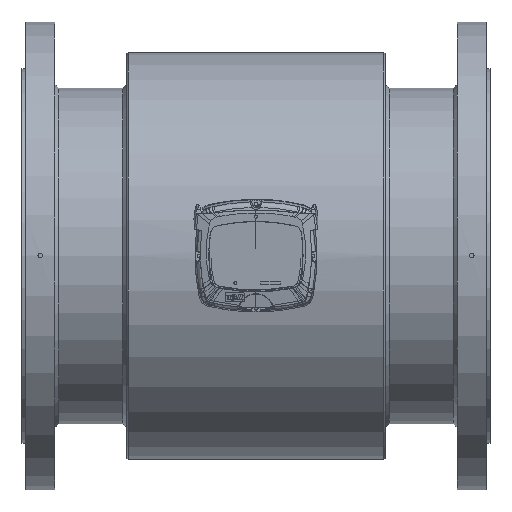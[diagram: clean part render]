
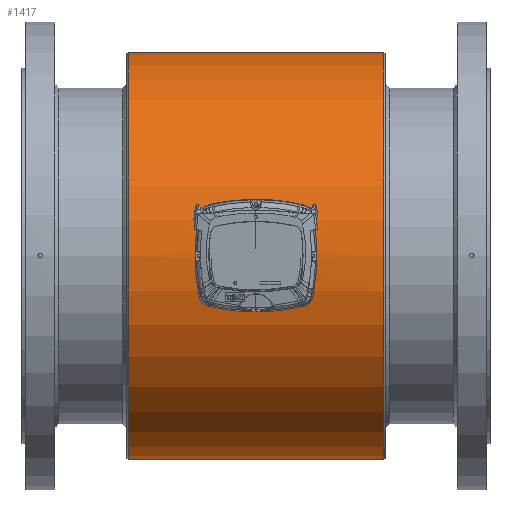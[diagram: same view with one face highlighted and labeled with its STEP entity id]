
A CAD part, top view. The second image highlights one B-rep face of the part: STEP entity #1417.
In plain terms, the highlighted cylindrical face has radius 261 mm (diameter 522 mm), a full revolution.
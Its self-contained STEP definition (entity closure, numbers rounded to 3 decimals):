
#1352=CARTESIAN_POINT('',(0.,-11.498,260.747));
#1353=VERTEX_POINT('',#1352);
#1363=CARTESIAN_POINT('',(0.,-11.499,260.747));
#1364=CARTESIAN_POINT('',(1.737,-11.499,260.747));
#1365=CARTESIAN_POINT('',(5.211,-10.713,260.783));
#1366=CARTESIAN_POINT('',(9.39,-7.415,260.906));
#1367=CARTESIAN_POINT('',(11.708,-2.647,261.004));
#1368=CARTESIAN_POINT('',(11.708,2.648,261.004));
#1369=CARTESIAN_POINT('',(9.388,7.413,260.906));
#1370=CARTESIAN_POINT('',(4.747,11.085,260.768));
#1371=CARTESIAN_POINT('',(-0.04,11.804,260.733));
#1372=CARTESIAN_POINT('',(-3.436,11.028,260.767));
#1373=CARTESIAN_POINT('',(-6.684,9.774,260.819));
#1374=CARTESIAN_POINT('',(-9.781,6.918,260.922));
#1375=CARTESIAN_POINT('',(-11.705,2.056,261.004));
#1376=CARTESIAN_POINT('',(-11.709,-2.645,261.004));
#1377=CARTESIAN_POINT('',(-9.389,-7.416,260.906));
#1378=CARTESIAN_POINT('',(-5.211,-10.713,260.783));
#1379=CARTESIAN_POINT('',(-1.737,-11.499,260.747));
#1380=CARTESIAN_POINT('',(0.,-11.499,260.747));
#1381=B_SPLINE_CURVE_WITH_KNOTS('',3,(#1363,#1364,#1365,#1366,#1367,#1368,#1369,#1370,#1371,#1372,#1373,#1374,#1375,#1376,#1377,#1378,#1379,#1380),.UNSPECIFIED.,.T.,.U.,(4,1,1,1,1,1,1,1,1,1,1,1,1,1,1,4),(-7.264,-6.745,-6.226,-5.707,-5.189,-4.67,-4.151,-3.459,-3.286,-3.113,-2.421,-2.075,-1.557,-1.038,-0.519,0.0),.UNSPECIFIED.);
#1382=EDGE_CURVE('',#1353,#1353,#1381,.T.);
#1387=CARTESIAN_POINT('',(82.0,0.0,0.0));
#1388=DIRECTION('',(1.0,0.0,0.0));
#1389=DIRECTION('',(0.0,1.0,0.0));
#1390=AXIS2_PLACEMENT_3D('',#1387,#1388,#1389);
#1391=CYLINDRICAL_SURFACE('',#1390,261.0);
#1392=CARTESIAN_POINT('',(-164.,261.0,0.0));
#1393=VERTEX_POINT('',#1392);
#1394=CARTESIAN_POINT('',(-164.,0.0,0.0));
#1395=DIRECTION('',(1.0,0.0,0.0));
#1396=DIRECTION('',(0.0,1.0,0.0));
#1397=AXIS2_PLACEMENT_3D('',#1394,#1395,#1396);
#1398=CIRCLE('',#1397,261.0);
#1399=EDGE_CURVE('',#1393,#1393,#1398,.T.);
#1400=ORIENTED_EDGE('',*,*,#1399,.T.);
#1401=EDGE_LOOP('',(#1400));
#1402=FACE_OUTER_BOUND('',#1401,.T.);
#1403=CARTESIAN_POINT('',(164.,261.0,0.0));
#1404=VERTEX_POINT('',#1403);
#1405=CARTESIAN_POINT('',(164.,0.0,0.0));
#1406=DIRECTION('',(1.0,0.0,0.0));
#1407=DIRECTION('',(0.0,1.0,0.0));
#1408=AXIS2_PLACEMENT_3D('',#1405,#1406,#1407);
#1409=CIRCLE('',#1408,261.0);
#1410=EDGE_CURVE('',#1404,#1404,#1409,.T.);
#1411=ORIENTED_EDGE('',*,*,#1410,.F.);
#1412=EDGE_LOOP('',(#1411));
#1413=FACE_BOUND('',#1412,.T.);
#1414=ORIENTED_EDGE('',*,*,#1382,.F.);
#1415=EDGE_LOOP('',(#1414));
#1416=FACE_BOUND('',#1415,.T.);
#1417=ADVANCED_FACE('',(#1402,#1413,#1416),#1391,.T.);
